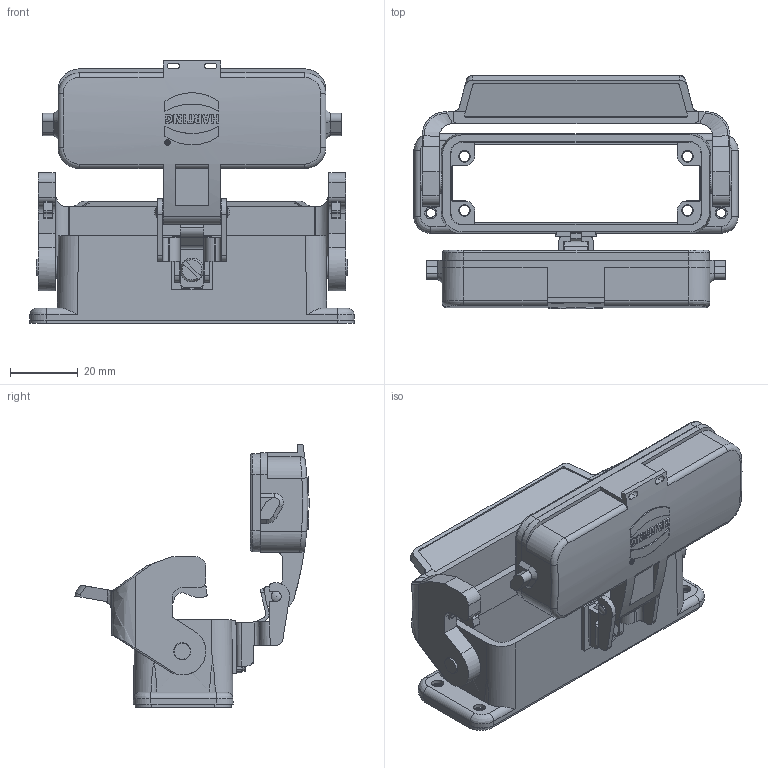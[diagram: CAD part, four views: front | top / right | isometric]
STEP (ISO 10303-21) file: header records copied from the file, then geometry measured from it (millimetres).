
FILE_DESCRIPTION(/* description */ (''),/* implementation_level */ '2;1');
FILE_NAME(/* name */ '100212779ugm000_e.stp',/* time_stamp */ '2023-03-16T11:31:13+01:00',/* author */ (''),/* organization */ (''),/* preprocessor_version */ 'ST-DEVELOPER v16.7',/* originating_system */ 'SIEMENS PLM Software NX 1911',/* authorisation */ '');
FILE_SCHEMA (('AUTOMOTIVE_DESIGN { 1 0 10303 214 3 1 1 1 }'));
Length unit declared in the file: millimetre
Products named in the file (1): 100212779ugm000_e
Bounding box: 96 x 69.28 x 77.79 mm (x, y, z)
Volume: 42261.9 mm3; surface area: 35014.5 mm2
Topology: 3 solids, 3 shells, 629 faces, 1727 edges, 1130 vertices
Faces by surface type: plane 343, cylinder 176, bspline 70, cone 23, torus 11, extrusion 4, sphere 2
Full cylindrical faces by diameter (mm): 2.7 x4, 3 x6, 3.1 x4, 3.5 x4, 4.8 x2, 5.1 x2, 6.5 x2, 7 x1
Entity records: 27884 total; most frequent: CARTESIAN_POINT 9644, ORIENTED_EDGE 3328, DIRECTION 2843, EDGE_CURVE 1664, VERTEX_POINT 1110, AXIS2_PLACEMENT_3D 959, VECTOR 925, LINE 921
